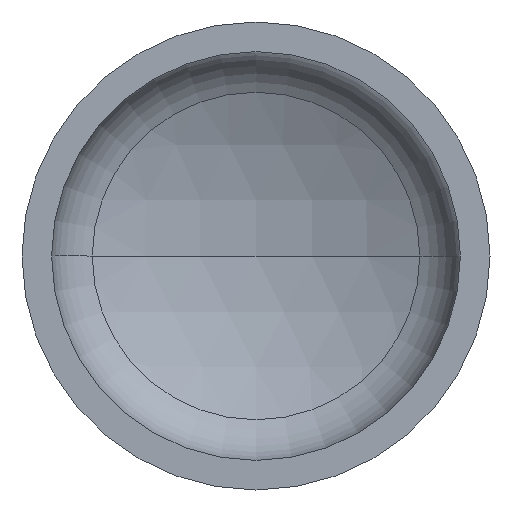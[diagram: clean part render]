
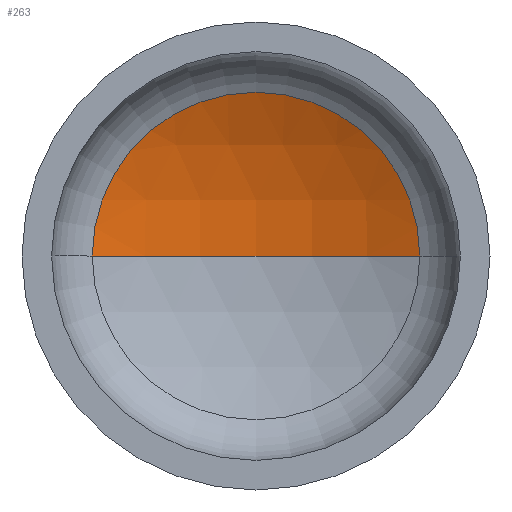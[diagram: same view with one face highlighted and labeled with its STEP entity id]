
A CAD part, front view. The second image highlights one B-rep face of the part: STEP entity #263.
In plain terms, the highlighted spherical face has radius 960 mm.
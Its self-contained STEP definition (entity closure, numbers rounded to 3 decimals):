
#14 = AXIS2_PLACEMENT_3D ( 'NONE', #155, #91, #386 ) ;
#28 = VERTEX_POINT ( 'NONE', #243 ) ;
#31 = DIRECTION ( 'NONE',  ( 1., 0., 0. ) ) ;
#41 = AXIS2_PLACEMENT_3D ( 'NONE', #180, #53, #31 ) ;
#42 = AXIS2_PLACEMENT_3D ( 'NONE', #171, #347, #192 ) ;
#44 = AXIS2_PLACEMENT_3D ( 'NONE', #190, #186, #188 ) ;
#48 = VERTEX_POINT ( 'NONE', #237 ) ;
#53 = DIRECTION ( 'NONE',  ( 0., 0., 1. ) ) ;
#81 = EDGE_CURVE ( 'NONE', #48, #89, #330, .T. ) ;
#83 = EDGE_CURVE ( 'NONE', #28, #48, #262, .T. ) ;
#89 = VERTEX_POINT ( 'NONE', #327 ) ;
#91 = DIRECTION ( 'NONE',  ( 0., 0., -1. ) ) ;
#92 = EDGE_CURVE ( 'NONE', #28, #89, #199, .T. ) ;
#95 = SPHERICAL_SURFACE ( 'NONE', #14, 960. ) ;
#98 = ORIENTED_EDGE ( 'NONE', *, *, #81, .T. ) ;
#155 = CARTESIAN_POINT ( 'NONE',  ( 0., -576.925, 0. ) ) ;
#166 = FACE_OUTER_BOUND ( 'NONE', #294, .T. ) ;
#171 = CARTESIAN_POINT ( 'NONE',  ( 0., -576.925, 0. ) ) ;
#180 = CARTESIAN_POINT ( 'NONE',  ( 0., -576.925, 0. ) ) ;
#186 = DIRECTION ( 'NONE',  ( 0., -1., 0. ) ) ;
#188 = DIRECTION ( 'NONE',  ( 1., 0., 0. ) ) ;
#190 = CARTESIAN_POINT ( 'NONE',  ( 0., 286.363, 0. ) ) ;
#192 = DIRECTION ( 'NONE',  ( -1., 0., 0. ) ) ;
#199 = CIRCLE ( 'NONE', #41, 960. ) ;
#237 = CARTESIAN_POINT ( 'NONE',  ( 419.923, 286.363, 0. ) ) ;
#243 = CARTESIAN_POINT ( 'NONE',  ( 0., 383.075, 0. ) ) ;
#262 = CIRCLE ( 'NONE', #42, 960. ) ;
#263 = ADVANCED_FACE ( 'NONE', ( #166 ), #95, .F. ) ;
#294 = EDGE_LOOP ( 'NONE', ( #356, #307, #98 ) ) ;
#307 = ORIENTED_EDGE ( 'NONE', *, *, #83, .T. ) ;
#327 = CARTESIAN_POINT ( 'NONE',  ( -419.923, 286.363, 0. ) ) ;
#330 = CIRCLE ( 'NONE', #44, 419.923 ) ;
#347 = DIRECTION ( 'NONE',  ( 0., 0., -1. ) ) ;
#356 = ORIENTED_EDGE ( 'NONE', *, *, #92, .F. ) ;
#386 = DIRECTION ( 'NONE',  ( -1., 0., 0. ) ) ;
